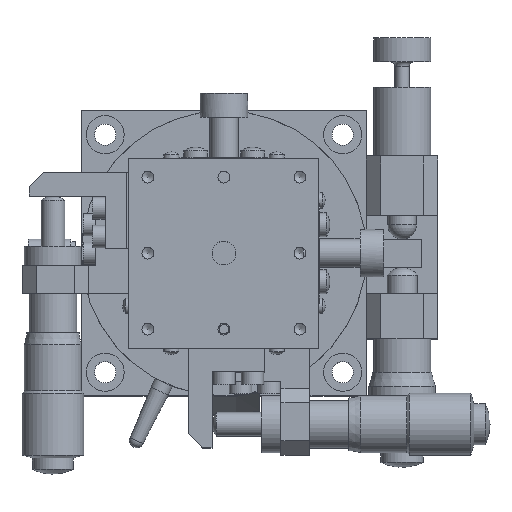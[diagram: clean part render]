
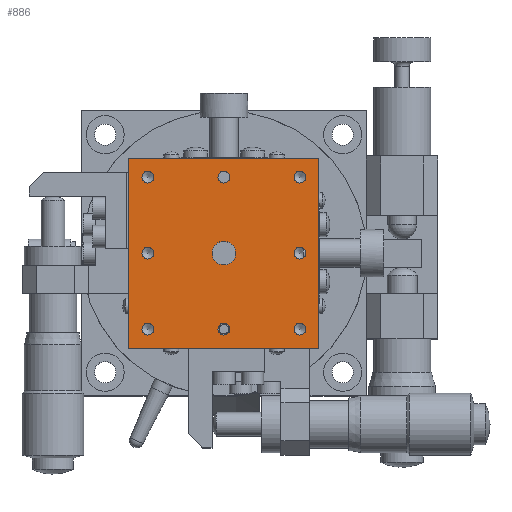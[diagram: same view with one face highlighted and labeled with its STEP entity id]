
A CAD part, top view. The second image highlights one B-rep face of the part: STEP entity #886.
In plain terms, the highlighted planar face has unit normal (0, 0, 1).
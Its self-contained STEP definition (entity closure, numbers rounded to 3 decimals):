
#886 = ADVANCED_FACE( '', ( #2001, #2002, #2003, #2004, #2005, #2006, #2007, #2008, #2009, #2010 ), #2011, .T. );
#2001 = FACE_BOUND( '', #3365, .T. );
#2002 = FACE_BOUND( '', #3366, .T. );
#2003 = FACE_BOUND( '', #3367, .T. );
#2004 = FACE_BOUND( '', #3368, .T. );
#2005 = FACE_BOUND( '', #3369, .T. );
#2006 = FACE_BOUND( '', #3370, .T. );
#2007 = FACE_BOUND( '', #3371, .T. );
#2008 = FACE_BOUND( '', #3372, .T. );
#2009 = FACE_BOUND( '', #3373, .T. );
#2010 = FACE_OUTER_BOUND( '', #3374, .T. );
#2011 = PLANE( '', #3375 );
#3365 = EDGE_LOOP( '', ( #6561 ) );
#3366 = EDGE_LOOP( '', ( #6562 ) );
#3367 = EDGE_LOOP( '', ( #6563 ) );
#3368 = EDGE_LOOP( '', ( #6564 ) );
#3369 = EDGE_LOOP( '', ( #6565 ) );
#3370 = EDGE_LOOP( '', ( #6566 ) );
#3371 = EDGE_LOOP( '', ( #6567 ) );
#3372 = EDGE_LOOP( '', ( #6568 ) );
#3373 = EDGE_LOOP( '', ( #6569 ) );
#3374 = EDGE_LOOP( '', ( #6570, #6571, #6572, #6573 ) );
#3375 = AXIS2_PLACEMENT_3D( '', #6574, #6575, #6576 );
#6561 = ORIENTED_EDGE( '', *, *, #8186, .T. );
#6562 = ORIENTED_EDGE( '', *, *, #8187, .T. );
#6563 = ORIENTED_EDGE( '', *, *, #8188, .T. );
#6564 = ORIENTED_EDGE( '', *, *, #8189, .T. );
#6565 = ORIENTED_EDGE( '', *, *, #8190, .T. );
#6566 = ORIENTED_EDGE( '', *, *, #8191, .T. );
#6567 = ORIENTED_EDGE( '', *, *, #8192, .T. );
#6568 = ORIENTED_EDGE( '', *, *, #8193, .T. );
#6569 = ORIENTED_EDGE( '', *, *, #8194, .T. );
#6570 = ORIENTED_EDGE( '', *, *, #8195, .F. );
#6571 = ORIENTED_EDGE( '', *, *, #8196, .F. );
#6572 = ORIENTED_EDGE( '', *, *, #8197, .F. );
#6573 = ORIENTED_EDGE( '', *, *, #8198, .F. );
#6574 = CARTESIAN_POINT( '', ( 0., 0., 47. ) );
#6575 = DIRECTION( '', ( 0., 0., 1. ) );
#6576 = DIRECTION( '', ( -1., 0., 0. ) );
#8186 = EDGE_CURVE( '', #9797, #9797, #9798, .T. );
#8187 = EDGE_CURVE( '', #9799, #9799, #9800, .T. );
#8188 = EDGE_CURVE( '', #9801, #9801, #9802, .T. );
#8189 = EDGE_CURVE( '', #9803, #9803, #9804, .T. );
#8190 = EDGE_CURVE( '', #9805, #9805, #9806, .T. );
#8191 = EDGE_CURVE( '', #9807, #9807, #9808, .T. );
#8192 = EDGE_CURVE( '', #9809, #9809, #9810, .T. );
#8193 = EDGE_CURVE( '', #9811, #9811, #9812, .T. );
#8194 = EDGE_CURVE( '', #9813, #9813, #9814, .T. );
#8195 = EDGE_CURVE( '', #9815, #9816, #9817, .T. );
#8196 = EDGE_CURVE( '', #9818, #9815, #9819, .T. );
#8197 = EDGE_CURVE( '', #9820, #9818, #9821, .T. );
#8198 = EDGE_CURVE( '', #9816, #9820, #9822, .T. );
#9797 = VERTEX_POINT( '', #12189 );
#9798 = CIRCLE( '', #12190, 2.5 );
#9799 = VERTEX_POINT( '', #12191 );
#9800 = CIRCLE( '', #12192, 1.25 );
#9801 = VERTEX_POINT( '', #12193 );
#9802 = CIRCLE( '', #12194, 1.25 );
#9803 = VERTEX_POINT( '', #12195 );
#9804 = CIRCLE( '', #12196, 1.25 );
#9805 = VERTEX_POINT( '', #12197 );
#9806 = CIRCLE( '', #12198, 1.25 );
#9807 = VERTEX_POINT( '', #12199 );
#9808 = CIRCLE( '', #12200, 1.25 );
#9809 = VERTEX_POINT( '', #12201 );
#9810 = CIRCLE( '', #12202, 1.25 );
#9811 = VERTEX_POINT( '', #12203 );
#9812 = CIRCLE( '', #12204, 1.25 );
#9813 = VERTEX_POINT( '', #12205 );
#9814 = CIRCLE( '', #12206, 1.25 );
#9815 = VERTEX_POINT( '', #12207 );
#9816 = VERTEX_POINT( '', #12208 );
#9817 = LINE( '', #12209, #12210 );
#9818 = VERTEX_POINT( '', #12211 );
#9819 = LINE( '', #12212, #12213 );
#9820 = VERTEX_POINT( '', #12214 );
#9821 = LINE( '', #12215, #12216 );
#9822 = LINE( '', #12217, #12218 );
#12189 = CARTESIAN_POINT( '', ( -2.5, 0., 47. ) );
#12190 = AXIS2_PLACEMENT_3D( '', #14080, #14081, #14082 );
#12191 = CARTESIAN_POINT( '', ( -1.25, -16., 47. ) );
#12192 = AXIS2_PLACEMENT_3D( '', #14083, #14084, #14085 );
#12193 = CARTESIAN_POINT( '', ( -1.25, 16., 47. ) );
#12194 = AXIS2_PLACEMENT_3D( '', #14086, #14087, #14088 );
#12195 = CARTESIAN_POINT( '', ( 14.75, 16., 47. ) );
#12196 = AXIS2_PLACEMENT_3D( '', #14089, #14090, #14091 );
#12197 = CARTESIAN_POINT( '', ( 14.75, 0., 47. ) );
#12198 = AXIS2_PLACEMENT_3D( '', #14092, #14093, #14094 );
#12199 = CARTESIAN_POINT( '', ( 14.75, -16., 47. ) );
#12200 = AXIS2_PLACEMENT_3D( '', #14095, #14096, #14097 );
#12201 = CARTESIAN_POINT( '', ( -17.25, -16., 47. ) );
#12202 = AXIS2_PLACEMENT_3D( '', #14098, #14099, #14100 );
#12203 = CARTESIAN_POINT( '', ( -17.25, 0., 47. ) );
#12204 = AXIS2_PLACEMENT_3D( '', #14101, #14102, #14103 );
#12205 = CARTESIAN_POINT( '', ( -17.25, 16., 47. ) );
#12206 = AXIS2_PLACEMENT_3D( '', #14104, #14105, #14106 );
#12207 = CARTESIAN_POINT( '', ( -20., 20., 47. ) );
#12208 = CARTESIAN_POINT( '', ( 20., 20., 47. ) );
#12209 = CARTESIAN_POINT( '', ( 0., 20., 47. ) );
#12210 = VECTOR( '', #14107, 1000. );
#12211 = CARTESIAN_POINT( '', ( -20., -20., 47. ) );
#12212 = CARTESIAN_POINT( '', ( -20., 0., 47. ) );
#12213 = VECTOR( '', #14108, 1000. );
#12214 = CARTESIAN_POINT( '', ( 20., -20., 47. ) );
#12215 = CARTESIAN_POINT( '', ( 0., -20., 47. ) );
#12216 = VECTOR( '', #14109, 1000. );
#12217 = CARTESIAN_POINT( '', ( 20., 0., 47. ) );
#12218 = VECTOR( '', #14110, 1000. );
#14080 = CARTESIAN_POINT( '', ( 0., 0., 47. ) );
#14081 = DIRECTION( '', ( 0., 0., -1. ) );
#14082 = DIRECTION( '', ( -1., 0., 0. ) );
#14083 = CARTESIAN_POINT( '', ( 0., -16., 47. ) );
#14084 = DIRECTION( '', ( 0., 0., -1. ) );
#14085 = DIRECTION( '', ( -1., 0., 0. ) );
#14086 = CARTESIAN_POINT( '', ( 0., 16., 47. ) );
#14087 = DIRECTION( '', ( 0., 0., -1. ) );
#14088 = DIRECTION( '', ( -1., 0., 0. ) );
#14089 = CARTESIAN_POINT( '', ( 16., 16., 47. ) );
#14090 = DIRECTION( '', ( 0., 0., -1. ) );
#14091 = DIRECTION( '', ( -1., 0., 0. ) );
#14092 = CARTESIAN_POINT( '', ( 16., 0., 47. ) );
#14093 = DIRECTION( '', ( 0., 0., -1. ) );
#14094 = DIRECTION( '', ( -1., 0., 0. ) );
#14095 = CARTESIAN_POINT( '', ( 16., -16., 47. ) );
#14096 = DIRECTION( '', ( 0., 0., -1. ) );
#14097 = DIRECTION( '', ( -1., 0., 0. ) );
#14098 = CARTESIAN_POINT( '', ( -16., -16., 47. ) );
#14099 = DIRECTION( '', ( 0., 0., -1. ) );
#14100 = DIRECTION( '', ( -1., 0., 0. ) );
#14101 = CARTESIAN_POINT( '', ( -16., 0., 47. ) );
#14102 = DIRECTION( '', ( 0., 0., -1. ) );
#14103 = DIRECTION( '', ( -1., 0., 0. ) );
#14104 = CARTESIAN_POINT( '', ( -16., 16., 47. ) );
#14105 = DIRECTION( '', ( 0., 0., -1. ) );
#14106 = DIRECTION( '', ( -1., 0., 0. ) );
#14107 = DIRECTION( '', ( 1., 0., 0. ) );
#14108 = DIRECTION( '', ( 0., 1., 0. ) );
#14109 = DIRECTION( '', ( -1., 0., 0. ) );
#14110 = DIRECTION( '', ( 0., -1., 0. ) );
